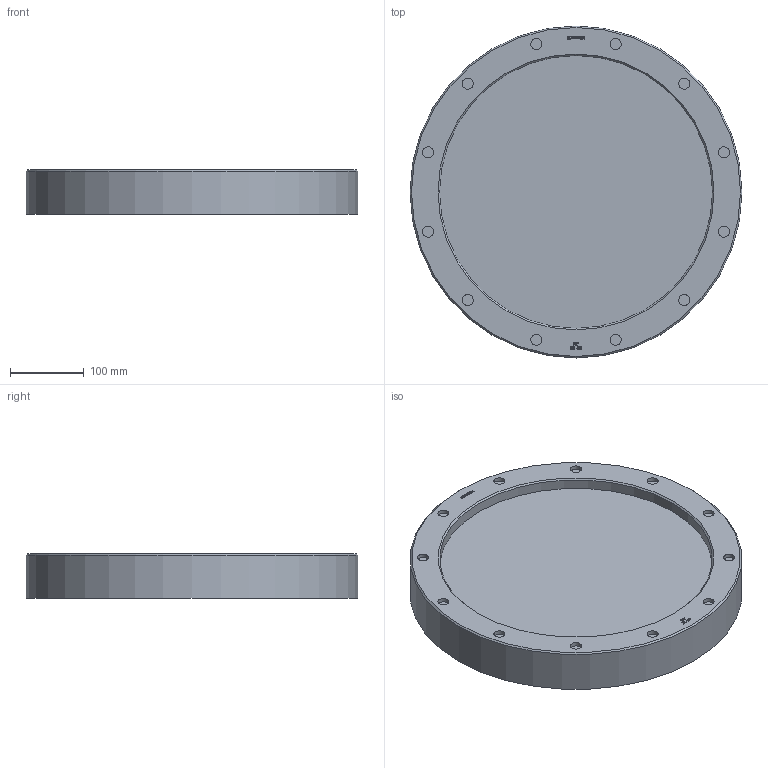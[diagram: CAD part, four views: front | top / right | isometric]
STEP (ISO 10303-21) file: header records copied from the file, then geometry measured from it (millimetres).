
FILE_DESCRIPTION(/* description */ (''),/* implementation_level */ '2;1');
FILE_NAME(/* name */ 'W:\Konstruktion_ACI\317\_STEP\ACI-317-400.stp',/* time_stamp */ '2022-03-02T17:49:25+01:00',/* author */ ('Travnicek'),/* organization */ ('ACI Industriearmaturen'),/* preprocessor_version */ 'ST-DEVELOPER v16.1',/* originating_system */ 'Autodesk Inventor 2016',/* authorisation */ '');
FILE_SCHEMA (('AUTOMOTIVE_DESIGN { 1 0 10303 214 3 1 1 }'));
Length unit declared in the file: centimetre
Products named in the file (1): ACI-317-400.stp
Bounding box: 450 x 450 x 60 mm (x, y, z)
Volume: 5645856.7 mm3; surface area: 442115.1 mm2
Topology: 1 solids, 1 shells, 290 faces, 747 edges, 497 vertices
Faces by surface type: plane 163, bspline 109, cylinder 15, cone 3
Full cylindrical faces by diameter (mm): 15 x12, 370 x2, 450 x1
Entity records: 9550 total; most frequent: CARTESIAN_POINT 2934, ORIENTED_EDGE 1458, DIRECTION 908, EDGE_CURVE 729, VERTEX_POINT 497, LINE 478, VECTOR 478, EDGE_LOOP 346
